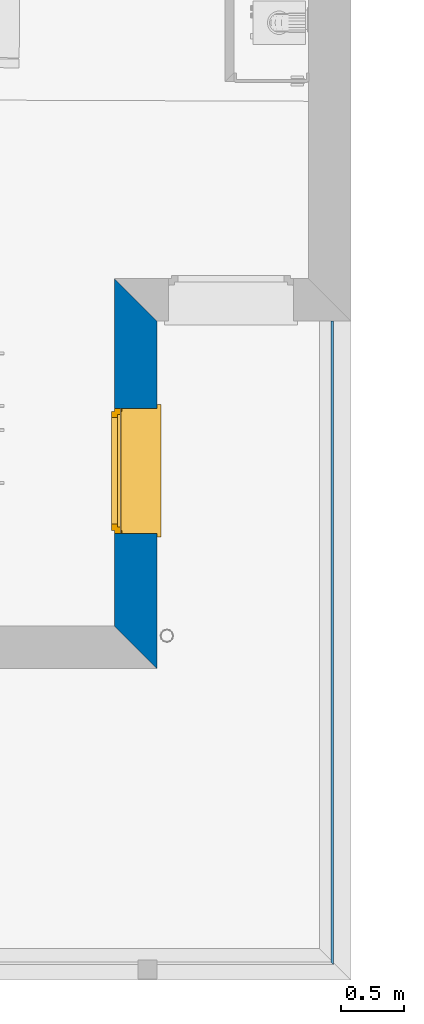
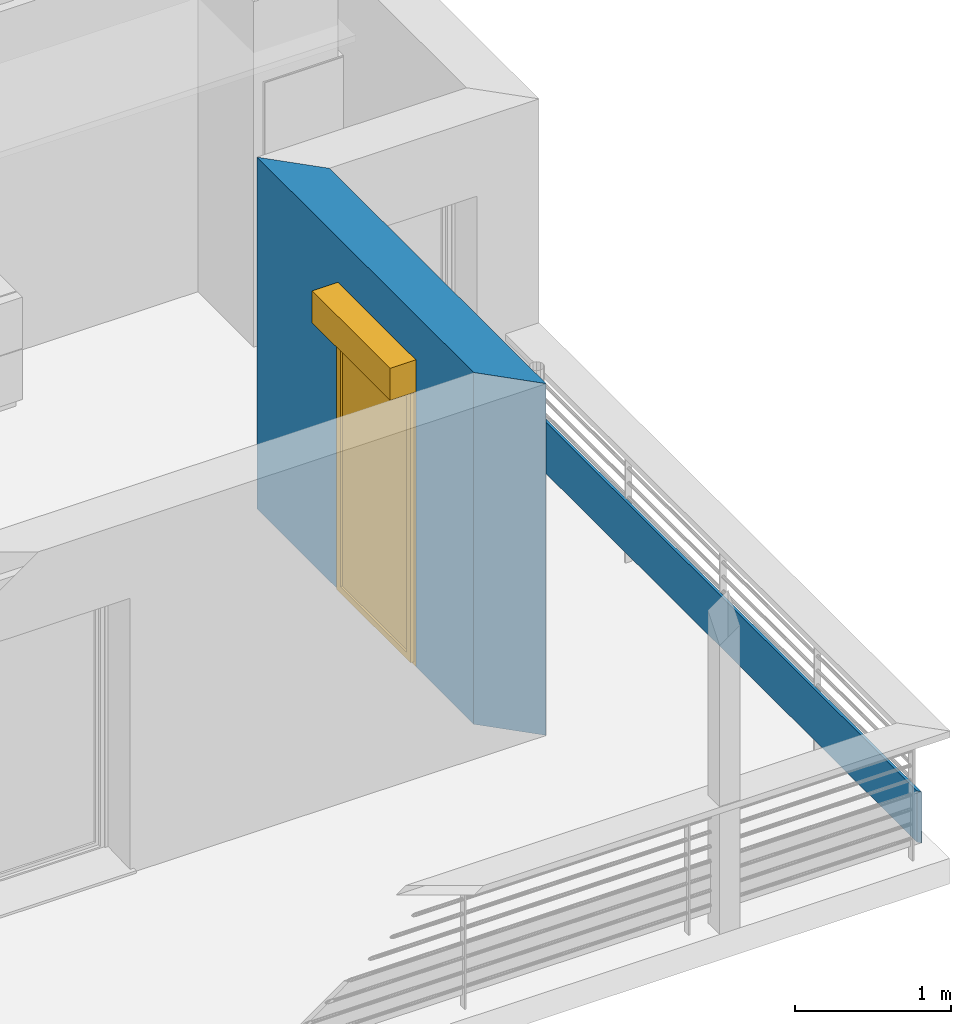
# One storey, part 14 of 164: 2 walls, 1 window, 1 opening.
"""IFC2X3 building model written with IfcOpenShell, lengths in millimetres."""

from ifc_helpers import new_model, entity, si_unit, converted_unit, derived_unit, money_unit, direction, frame, origin_with_axes, place, context, subcontext, project, spatial, polyline, outline, extrude, open_shell, faceted_brep, surface_model, source, transform, mapped, material, layer, layer_set, layer_usage, type_object, element, fill, save


model = new_model("IFC2X3")

# Units and contexts
model_context = context("Model", 3, precision=0.01, world=origin_with_axes(), true_north=direction((0.0, 1.0)))
body_context = subcontext(model_context, "Body", "Model", "MODEL_VIEW")
ifc_project = project(units=[si_unit("LENGTHUNIT", "METRE", prefix="MILLI"), si_unit("AREAUNIT", "SQUARE_METRE"), si_unit("VOLUMEUNIT", "CUBIC_METRE"), converted_unit("PLANEANGLEUNIT", "DEGREE", entity("IfcPlaneAngleMeasure", 0.0174532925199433), si_unit("PLANEANGLEUNIT", "RADIAN"), dimensions=[0, 0, 0, 0, 0, 0, 0]), money_unit("USD"), converted_unit("TIMEUNIT", "Year", entity("IfcTimeMeasure", 31557600.0), si_unit("TIMEUNIT", "SECOND"), dimensions=[0, 0, 1, 0, 0, 0, 0]), si_unit("MASSUNIT", "GRAM", prefix="KILO"), si_unit("THERMODYNAMICTEMPERATUREUNIT", "DEGREE_CELSIUS"), si_unit("LUMINOUSINTENSITYUNIT", "LUMEN"), si_unit("ENERGYUNIT", "JOULE", prefix="MEGA"), derived_unit("THERMALCONDUCTANCEUNIT", [(si_unit("POWERUNIT", "WATT"), 1), (si_unit("LENGTHUNIT", "METRE"), -1), (si_unit("THERMODYNAMICTEMPERATUREUNIT", "KELVIN"), -1)]), derived_unit("SPECIFICHEATCAPACITYUNIT", [(si_unit("ENERGYUNIT", "JOULE"), 1), (si_unit("MASSUNIT", "GRAM", prefix="KILO"), -1), (si_unit("THERMODYNAMICTEMPERATUREUNIT", "KELVIN"), -1)]), derived_unit("MASSDENSITYUNIT", [(si_unit("MASSUNIT", "GRAM", prefix="KILO"), 1), (si_unit("VOLUMEUNIT", "CUBIC_METRE"), -1)])], contexts=[model_context])

# Site, building, storey
site_placement = place(None, origin_with_axes())
site = spatial("IfcSite", under=ifc_project, at=site_placement, Name="Site", CompositionType="ELEMENT")
building_placement = place(site_placement, origin_with_axes())
building = spatial("IfcBuilding", under=site, at=building_placement, Name="Bâtiment", CompositionType="ELEMENT")
storey_placement = place(building_placement, frame((0.0, 0.0, 5750.0), z_axis=(0.0, 0.0, 1.0), x_axis=(1.0, 0.0, 0.0)))
storey = spatial("IfcBuildingStorey", under=building, at=storey_placement, Name="Etage1", CompositionType="ELEMENT", Elevation=5750.0)

# Wall
ifc_material_1 = material(Name="MANQUANT")
ifc_layer_1 = layer(ifc_material_1, 20.0, ventilated="UNKNOWN")
ifc_layer_set_1 = layer_set([ifc_layer_1], Name="MANQUANT 20")
ifc_layer_usage_1 = layer_usage(ifc_layer_set_1, "AXIS2", "NEGATIVE", 20.0)
wall_type_1 = type_object("IfcWallType", Name="MANQUANT 20", PredefinedType="NOTDEFINED")
wall_1_placement = place(storey_placement, frame((2234215.605458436, -660181.523627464, 99.99999999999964), z_axis=(0.0, 0.0, 1.0), x_axis=(0.0, 1.0, 0.0)))
element("IfcWallStandardCase", 1, at=wall_1_placement, inside=storey, type_object=wall_type_1, material=ifc_layer_usage_1, Name="Mur-152", context=body_context, shape_type="SweptSolid", body=[
    extrude(outline(polyline([(0.0, 0.0), (5140.055849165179, 0.0), (5140.055849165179, 19.99999999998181), (19.99999999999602, 19.99999999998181), (0.0, 0.0)])), origin_with_axes(), (0.0, 0.0, 1.0), 400.0),
])

# Wall, opening, window
ifc_material_2 = material(Name="Parpaing 312445824")
ifc_layer_2 = layer(ifc_material_2, 180.0, ventilated="UNKNOWN")
ifc_material_3 = material(Name="Isolant styromousse 301821074")
ifc_layer_3 = layer(ifc_material_3, 160.0, ventilated="UNKNOWN")
ifc_layer_set_2 = layer_set([ifc_layer_2, ifc_layer_3], Name="isol int 18+16 0018356637")
ifc_layer_usage_2 = layer_usage(ifc_layer_set_2, "AXIS2", "POSITIVE", 0.0)
wall_type_2 = type_object("IfcWallType", Name="isol int 18+16 0018356637 340", PredefinedType="NOTDEFINED")
wall_2_placement = place(storey_placement, frame((2232806.658098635, -657818.3230769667, 0.0), z_axis=(0.0, 0.0, 1.0), x_axis=(0.0, 1.0, 0.0)))
wall_2 = element("IfcWallStandardCase", 2, at=wall_2_placement, inside=storey, type_object=wall_type_2, material=ifc_layer_usage_2, Name="Mur-142", context=body_context, shape_type="SweptSolid", body=[
    extrude(outline(polyline([(0.0, 0.0), (2776.855298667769, 0.0), (3116.855298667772, 340.0000000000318), (339.9999999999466, 340.0000000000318), (0.0, 0.0)])), origin_with_axes(), (0.0, 0.0, 1.0), 2750.0),
])
opening_placement = place(wall_2_placement, frame((1580.519634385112, 0.0, 0.0), z_axis=(0.0, 0.0, 1.0), x_axis=(1.0, 0.0, 0.0)))
opening = element("IfcOpeningElement", 3, at=opening_placement, cuts=wall_2, Name="Fen-208", context=body_context, shape_type="Brep", body=[
    faceted_brep([(500.0, 290.0000000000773, 2150.0), (500.0, 280.0000000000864, 2150.0), (500.0, -0.9999999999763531, 2150.0), (500.0, -0.9999999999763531, 0.0), (500.0, 290.0000000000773, 0.0), (500.0, 341.0000000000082, 2150.0), (500.0, 530.0000000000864, 2150.0), (500.0, 530.0000000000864, 2400.0), (500.0, 280.0000000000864, 2400.0), (-500.0, 280.0000000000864, 2150.0), (-500.0, -0.9999999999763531, 2150.0), (-500.0, -0.9999999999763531, 0.0), (-500.0, 290.0000000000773, 0.0), (-500.0, 341.0000000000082, 0.0), (500.0, 341.0000000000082, 0.0), (-500.0, 341.0000000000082, 2150.0), (-500.0, 530.0000000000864, 2150.0), (-500.0, 530.0000000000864, 2400.0), (-500.0, 280.0000000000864, 2400.0), (-500.0, 290.0000000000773, 2150.0)], [[[0, 1, 2, 3, 4]], [[1, 0, 5, 6, 7, 8]], [[1, 9, 10, 2]], [[10, 11, 3, 2]], [[4, 3, 11, 12, 13, 14]], [[5, 0, 4, 14]], [[5, 15, 16, 6]], [[16, 17, 7, 6]], [[17, 18, 8, 7]], [[9, 1, 8, 18]], [[9, 19, 12, 11, 10]], [[19, 15, 13, 12]], [[15, 5, 14, 13]], [[19, 9, 18, 17, 16, 15]]]),
])
window_style = type_object("IfcWindowStyle", Name="Fenêtre 27", ConstructionType="NOTDEFINED", OperationType="SINGLE_PANEL", ParameterTakesPrecedence=False, Sizeable=False)
shared_shape = source(origin_with_axes(), body_context, "Body", "SurfaceModel", [
    surface_model("IfcShellBasedSurfaceModel", [(-500.0, -51.00000000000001, 40.00000000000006), (500.0, -51.00000000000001, 40.0), (500.0, -51.00000000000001, 50.0), (-500.0, -51.00000000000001, 50.00000000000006), (-530.0, -369.9999999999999, 28.96551724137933), (530.0, -369.9999999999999, 28.96551724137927), (530.0, -339.9999999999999, 30.00324289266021), (500.0, -339.9999999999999, 30.00324289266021), (-500.0, -339.9999999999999, 30.00324289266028), (-530.0, -339.9999999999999, 30.00324289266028), (-530.0, -369.9999999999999, 8.96551724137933), (530.0, -369.9999999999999, 8.965517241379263), (-530.0, -359.9999999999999, 18.96551724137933), (530.0, -359.9999999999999, 18.96551724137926)], [open_shell([[[0, 1, 2, 3]], [[4, 5, 6, 7, 1, 0, 8, 9]], [[10, 11, 5, 4]], [[12, 13, 11, 10]]])]),
    faceted_brep([(500.0, -59.99999999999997, 2400.0), (500.0, 190.0, 2400.0), (497.0, 190.0, 2400.0), (497.0, -59.99999999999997, 2400.0), (500.0, -59.99999999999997, 2150.0), (500.0, 190.0, 2150.0), (497.0, 190.0, 2150.0), (497.0, -59.99999999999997, 2150.0)], [[[0, 1, 2, 3]], [[0, 4, 5, 1]], [[1, 5, 6, 2]], [[3, 2, 6, 7]], [[4, 0, 3, 7]], [[5, 4, 7, 6]]]),
    faceted_brep([(-497.0, -59.99999999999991, 2400.0), (-497.0, 190.0000000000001, 2400.0), (-500.0, 190.0000000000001, 2400.0), (-500.0, -59.99999999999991, 2400.0), (-497.0, -59.99999999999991, 2150.0), (-497.0, 190.0000000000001, 2150.0), (-500.0, 190.0000000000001, 2150.0), (-500.0, -59.99999999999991, 2150.0)], [[[0, 1, 2, 3]], [[0, 4, 5, 1]], [[1, 5, 6, 2]], [[3, 2, 6, 7]], [[4, 0, 3, 7]], [[5, 4, 7, 6]]]),
    faceted_brep([(497.0, -60.0, 2150.0), (497.0, -60.0, 2400.0), (-497.0, -59.99999999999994, 2400.0), (-497.0, -59.99999999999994, 2150.0), (497.0, -56.99999999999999, 2150.0), (497.0, -56.99999999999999, 2397.0), (497.0, 187.0, 2397.0), (497.0, 187.0, 2153.0), (497.0, -37.99999999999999, 2153.0), (497.0, -37.99999999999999, 2150.0), (497.0, 190.0, 2150.0), (497.0, 190.0, 2400.0), (-497.0, 190.0000000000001, 2400.0), (-497.0, 190.0000000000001, 2150.0), (-497.0, -37.99999999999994, 2150.0), (-497.0, -37.99999999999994, 2153.0), (-497.0, 187.0000000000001, 2153.0), (-497.0, 187.0000000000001, 2397.0), (-497.0, -56.99999999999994, 2397.0), (-497.0, -56.99999999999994, 2150.0)], [[[0, 1, 2, 3]], [[0, 4, 5, 6, 7, 8, 9, 10, 11, 1]], [[1, 11, 12, 2]], [[3, 2, 12, 13, 14, 15, 16, 17, 18, 19]], [[4, 0, 3, 19]], [[5, 4, 19, 18]], [[6, 5, 18, 17]], [[7, 6, 17, 16]], [[8, 7, 16, 15]], [[9, 8, 15, 14]], [[10, 9, 14, 13]], [[11, 10, 13, 12]]]),
    faceted_brep([(494.0, -40.37442957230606, 2256.419644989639), (494.0, -35.54711042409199, 2238.403844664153), (494.0, -27.66471820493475, 2221.5), (494.0, -16.9667554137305, 2206.22172576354), (494.0, -3.778274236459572, 2193.033244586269), (494.0, 11.50000000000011, 2182.335281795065), (494.0, 28.40384466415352, 2174.452889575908), (494.0, 46.4196449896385, 2169.625570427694), (494.0, 65.00000000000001, 2168.0), (494.0, 83.58035501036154, 2169.625570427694), (494.0, 101.5961553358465, 2174.452889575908), (494.0, 118.4999999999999, 2182.335281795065), (494.0, 133.7782742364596, 2193.033244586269), (494.0, 146.9667554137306, 2206.22172576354), (494.0, 157.6647182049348, 2221.5), (494.0, 165.5471104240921, 2238.403844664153), (494.0, 170.3744295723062, 2256.419644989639), (494.0, 171.9999999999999, 2275.0), (494.0, 170.3744295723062, 2293.580355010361), (494.0, 165.5471104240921, 2311.596155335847), (494.0, 157.6647182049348, 2328.5), (494.0, 146.9667554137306, 2343.77827423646), (494.0, 133.7782742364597, 2356.96675541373), (494.0, 118.5, 2367.664718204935), (494.0, 101.5961553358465, 2375.547110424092), (494.0, 83.58035501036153, 2380.374429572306), (494.0, 64.99999999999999, 2382.0), (494.0, 46.41964498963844, 2380.374429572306), (494.0, 28.40384466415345, 2375.547110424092), (494.0, 11.5, 2367.664718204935), (494.0, -3.778274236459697, 2356.96675541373), (494.0, -16.96675541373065, 2343.77827423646), (494.0, -27.66471820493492, 2328.5), (494.0, -35.54711042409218, 2311.596155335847), (494.0, -40.37442957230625, 2293.580355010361), (494.0, -41.99999999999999, 2275.0), (-494.0, -40.374429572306, 2256.419644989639), (-494.0, -35.54711042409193, 2238.403844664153), (-494.0, -27.6647182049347, 2221.5), (-494.0, -16.96675541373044, 2206.22172576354), (-494.0, -3.778274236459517, 2193.033244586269), (-494.0, 11.50000000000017, 2182.335281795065), (-494.0, 28.40384466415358, 2174.452889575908), (-494.0, 46.41964498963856, 2169.625570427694), (-494.0, 65.00000000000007, 2168.0), (-494.0, 83.5803550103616, 2169.625570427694), (-494.0, 101.5961553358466, 2174.452889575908), (-494.0, 118.5, 2182.335281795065), (-494.0, 133.7782742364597, 2193.033244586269), (-494.0, 146.9667554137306, 2206.22172576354), (-494.0, 157.6647182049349, 2221.5), (-494.0, 165.5471104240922, 2238.403844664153), (-494.0, 170.3744295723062, 2256.419644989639), (-494.0, 172.0, 2275.0), (-494.0, 170.3744295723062, 2293.580355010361), (-494.0, 165.5471104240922, 2311.596155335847), (-494.0, 157.6647182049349, 2328.5), (-494.0, 146.9667554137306, 2343.77827423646), (-494.0, 133.7782742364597, 2356.96675541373), (-494.0, 118.5, 2367.664718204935), (-494.0, 101.5961553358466, 2375.547110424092), (-494.0, 83.58035501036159, 2380.374429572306), (-494.0, 65.00000000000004, 2382.0), (-494.0, 46.41964498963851, 2380.374429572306), (-494.0, 28.40384466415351, 2375.547110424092), (-494.0, 11.50000000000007, 2367.664718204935), (-494.0, -3.778274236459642, 2356.96675541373), (-494.0, -16.96675541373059, 2343.77827423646), (-494.0, -27.66471820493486, 2328.5), (-494.0, -35.54711042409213, 2311.596155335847), (-494.0, -40.37442957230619, 2293.580355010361), (-494.0, -41.99999999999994, 2275.0)], [[[0, 1, 2, 3, 4, 5, 6, 7, 8, 9, 10, 11, 12, 13, 14, 15, 16, 17, 18, 19, 20, 21, 22, 23, 24, 25, 26, 27, 28, 29, 30, 31, 32, 33, 34, 35]], [[1, 0, 36, 37]], [[2, 1, 37, 38]], [[3, 2, 38, 39]], [[4, 3, 39, 40]], [[5, 4, 40, 41]], [[6, 5, 41, 42]], [[7, 6, 42, 43]], [[8, 7, 43, 44]], [[9, 8, 44, 45]], [[10, 9, 45, 46]], [[11, 10, 46, 47]], [[12, 11, 47, 48]], [[13, 12, 48, 49]], [[14, 13, 49, 50]], [[15, 14, 50, 51]], [[16, 15, 51, 52]], [[17, 16, 52, 53]], [[18, 17, 53, 54]], [[19, 18, 54, 55]], [[20, 19, 55, 56]], [[21, 20, 56, 57]], [[22, 21, 57, 58]], [[23, 22, 58, 59]], [[24, 23, 59, 60]], [[25, 24, 60, 61]], [[26, 25, 61, 62]], [[27, 26, 62, 63]], [[28, 27, 63, 64]], [[29, 28, 64, 65]], [[30, 29, 65, 66]], [[31, 30, 66, 67]], [[32, 31, 67, 68]], [[33, 32, 68, 69]], [[34, 33, 69, 70]], [[35, 34, 70, 71]], [[0, 35, 71, 36]], [[36, 71, 70, 69, 68, 67, 66, 65, 64, 63, 62, 61, 60, 59, 58, 57, 56, 55, 54, 53, 52, 51, 50, 49, 48, 47, 46, 45, 44, 43, 42, 41, 40, 39, 38, 37]]]),
    faceted_brep([(-500.0, -34.99999999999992, 30.0), (-500.0, -59.99999999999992, 30.0), (-500.0, -59.99999999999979, 2150.0), (-500.0, -34.99999999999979, 2150.0), (-475.0, -34.99999999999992, 30.0), (-475.0, -37.99999999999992, 30.0), (-497.0, -37.99999999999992, 30.0), (-497.0, -56.99999999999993, 30.0), (-475.0, -56.99999999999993, 30.0), (-475.0, -59.99999999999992, 30.0), (-475.0, -59.99999999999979, 2150.0), (-475.0, -56.99999999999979, 2150.0), (-497.0, -56.99999999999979, 2150.0), (-497.0, -37.99999999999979, 2150.0), (-475.0, -37.99999999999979, 2150.0), (-475.0, -34.99999999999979, 2150.0)], [[[0, 1, 2, 3]], [[0, 4, 5, 6, 7, 8, 9, 1]], [[1, 9, 10, 2]], [[3, 2, 10, 11, 12, 13, 14, 15]], [[4, 0, 3, 15]], [[5, 4, 15, 14]], [[6, 5, 14, 13]], [[7, 6, 13, 12]], [[8, 7, 12, 11]], [[9, 8, 11, 10]]]),
    faceted_brep([(500.0, -34.99999999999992, 30.0), (500.0, -34.99999999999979, 2150.0), (500.0, -59.99999999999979, 2150.0), (500.0, -59.99999999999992, 30.0), (475.0, -34.99999999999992, 30.0), (475.0, -34.99999999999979, 2150.0), (475.0, -37.99999999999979, 2150.0), (497.0, -37.99999999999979, 2150.0), (497.0, -56.99999999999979, 2150.0), (475.0, -56.99999999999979, 2150.0), (475.0, -59.99999999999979, 2150.0), (475.0, -59.99999999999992, 30.0), (475.0, -56.99999999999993, 30.0), (497.0, -56.99999999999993, 30.0), (497.0, -37.99999999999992, 30.0), (475.0, -37.99999999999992, 30.0)], [[[0, 1, 2, 3]], [[4, 5, 1, 0]], [[1, 5, 6, 7, 8, 9, 10, 2]], [[3, 2, 10, 11]], [[0, 3, 11, 12, 13, 14, 15, 4]], [[15, 6, 5, 4]], [[14, 7, 6, 15]], [[13, 8, 7, 14]], [[12, 9, 8, 13]], [[11, 10, 9, 12]]]),
    faceted_brep([(-497.0, -46.66666666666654, 2275.0), (497.0, -46.6666666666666, 2275.0), (497.0, -46.6666666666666, 2266.666666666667), (-497.0, -46.66666666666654, 2266.666666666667), (-497.0, -51.66666666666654, 2275.0), (497.0, -51.6666666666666, 2275.0), (497.0, -51.6666666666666, 2266.666666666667), (497.0, -49.99999999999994, 2250.0), (497.0, -44.99999999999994, 2250.0), (-497.0, -44.99999999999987, 2250.0), (-497.0, -49.99999999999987, 2250.0), (-497.0, -51.66666666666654, 2266.666666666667)], [[[0, 1, 2, 3]], [[1, 0, 4, 5]], [[1, 5, 6, 7, 8, 2]], [[2, 8, 9, 3]], [[4, 0, 3, 9, 10, 11]], [[6, 5, 4, 11]], [[7, 6, 11, 10]], [[8, 7, 10, 9]]]),
    faceted_brep([(497.0, -44.99999999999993, 2250.0), (497.0, -46.6666666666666, 2233.333333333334), (-497.0, -46.66666666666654, 2233.333333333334), (-497.0, -44.99999999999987, 2250.0), (497.0, -49.99999999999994, 2250.0), (497.0, -51.6666666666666, 2233.333333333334), (497.0, -51.6666666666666, 2216.666666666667), (497.0, -49.99999999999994, 2200.0), (497.0, -44.99999999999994, 2200.0), (497.0, -46.6666666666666, 2216.666666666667), (-497.0, -46.66666666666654, 2216.666666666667), (-497.0, -44.99999999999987, 2200.0), (-497.0, -49.99999999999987, 2200.0), (-497.0, -51.66666666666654, 2216.666666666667), (-497.0, -51.66666666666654, 2233.333333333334), (-497.0, -49.99999999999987, 2250.0)], [[[0, 1, 2, 3]], [[0, 4, 5, 6, 7, 8, 9, 1]], [[1, 9, 10, 2]], [[3, 2, 10, 11, 12, 13, 14, 15]], [[4, 0, 3, 15]], [[5, 4, 15, 14]], [[6, 5, 14, 13]], [[7, 6, 13, 12]], [[8, 7, 12, 11]], [[9, 8, 11, 10]]]),
    faceted_brep([(497.0, -44.99999999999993, 2200.0), (497.0, -46.6666666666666, 2183.333333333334), (-497.0, -46.66666666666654, 2183.333333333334), (-497.0, -44.99999999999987, 2200.0), (497.0, -49.99999999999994, 2200.0), (497.0, -51.6666666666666, 2183.333333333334), (497.0, -51.6666666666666, 2166.666666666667), (497.0, -49.99999999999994, 2150.000000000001), (497.0, -44.99999999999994, 2150.000000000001), (497.0, -46.6666666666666, 2166.666666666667), (-497.0, -46.66666666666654, 2166.666666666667), (-497.0, -44.99999999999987, 2150.000000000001), (-497.0, -49.99999999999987, 2150.000000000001), (-497.0, -51.66666666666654, 2166.666666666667), (-497.0, -51.66666666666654, 2183.333333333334), (-497.0, -49.99999999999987, 2200.0)], [[[0, 1, 2, 3]], [[0, 4, 5, 6, 7, 8, 9, 1]], [[1, 9, 10, 2]], [[3, 2, 10, 11, 12, 13, 14, 15]], [[4, 0, 3, 15]], [[5, 4, 15, 14]], [[6, 5, 14, 13]], [[7, 6, 13, 12]], [[8, 7, 12, 11]], [[9, 8, 11, 10]]]),
    faceted_brep([(475.0000000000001, 0.0, 2100.0), (475.0000000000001, -25.00000000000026, 2100.0), (450.0, -25.00000000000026, 2100.0), (450.0, -50.00000000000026, 2100.0), (500.0, -50.00000000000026, 2100.0), (500.0, 0.0, 2100.0), (475.0000000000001, 0.0, 50.00000000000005), (475.0000000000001, -25.00000000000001, 50.00000000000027), (450.0, -25.00000000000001, 50.00000000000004), (450.0, -50.00000000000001, 50.00000000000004), (500.0, -50.00000000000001, 50.00000000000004), (500.0, 0.0, 50.00000000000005)], [[[0, 1, 2, 3, 4, 5]], [[1, 0, 6, 7]], [[8, 2, 1, 7]], [[2, 8, 9, 3]], [[4, 3, 9, 10]], [[5, 4, 10, 11]], [[6, 0, 5, 11]], [[7, 6, 11, 10, 9, 8]]]),
    faceted_brep([(-450.0, -25.00000000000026, 2100.0), (-475.0000000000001, -25.00000000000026, 2100.0), (-475.0000000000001, 0.0, 2100.0), (-500.0, 0.0, 2100.0), (-500.0, -50.00000000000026, 2100.0), (-450.0, -50.00000000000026, 2100.0), (-450.0, -25.00000000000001, 50.00000000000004), (-475.0000000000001, -25.00000000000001, 50.00000000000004), (-475.0000000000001, 0.0, 50.00000000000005), (-500.0, 0.0, 50.00000000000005), (-500.0, -50.00000000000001, 50.00000000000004), (-450.0, -50.00000000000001, 50.00000000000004)], [[[0, 1, 2, 3, 4, 5]], [[1, 0, 6, 7]], [[8, 2, 1, 7]], [[2, 8, 9, 3]], [[9, 10, 4, 3]], [[10, 11, 5, 4]], [[6, 0, 5, 11]], [[7, 6, 11, 10, 9, 8]]]),
    faceted_brep([(-450.0, -25.00000000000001, 50.00000000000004), (-475.0000000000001, -25.00000000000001, 50.00000000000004), (-475.0000000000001, 0.0, 50.00000000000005), (-500.0, 0.0, 50.00000000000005), (-500.0, -50.00000000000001, 50.00000000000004), (-450.0, -50.00000000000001, 50.00000000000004), (450.0, -25.00000000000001, 50.00000000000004), (475.0000000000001, -25.00000000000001, 50.00000000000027), (475.0000000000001, -25.0, 24.99999999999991), (-475.0000000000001, -25.0, 24.99999999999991), (-475.0000000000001, 0.0, 24.99999999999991), (475.0000000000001, 0.0, 24.99999999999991), (475.0000000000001, 0.0, 50.00000000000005), (500.0, 0.0, 50.00000000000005), (500.0, 0.0, 0.0), (-500.0, 0.0, 0.0), (-500.0, -50.0, 0.0), (500.0, -50.00000000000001, 50.00000000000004), (450.0, -50.00000000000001, 50.00000000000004), (500.0, -50.0, 0.0)], [[[0, 1, 2, 3, 4, 5]], [[1, 0, 6, 7, 8, 9]], [[10, 2, 1, 9]], [[11, 12, 13, 14, 15, 3, 2, 10]], [[15, 16, 4, 3]], [[17, 18, 5, 4, 16, 19]], [[6, 0, 5, 18]], [[7, 6, 18, 17, 13, 12]], [[7, 12, 11, 8]], [[11, 10, 9, 8]], [[13, 17, 19, 14]], [[14, 19, 16, 15]]]),
    faceted_brep([(475.0000000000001, 0.0, 2100.0), (475.0000000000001, 0.0, 2125.0), (-475.0000000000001, 0.0, 2125.0), (-475.0000000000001, 0.0, 2100.0), (-500.0, 0.0, 2100.0), (-500.0, 0.0, 2150.0), (500.0, 0.0, 2150.0), (500.0, 0.0, 2100.0), (475.0000000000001, -25.00000000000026, 2100.0), (475.0000000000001, -25.00000000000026, 2125.0), (-475.0000000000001, -25.00000000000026, 2125.0), (-475.0000000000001, -25.00000000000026, 2100.0), (-450.0, -25.00000000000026, 2100.0), (-450.0, -50.00000000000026, 2100.0), (-500.0, -50.00000000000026, 2100.0), (-500.0, -50.00000000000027, 2150.0), (500.0, -50.00000000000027, 2150.0), (500.0, -50.00000000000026, 2100.0), (450.0, -50.00000000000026, 2100.0), (450.0, -25.00000000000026, 2100.0)], [[[0, 1, 2, 3, 4, 5, 6, 7]], [[1, 0, 8, 9]], [[2, 1, 9, 10]], [[3, 2, 10, 11]], [[11, 12, 13, 14, 4, 3]], [[4, 14, 15, 5]], [[5, 15, 16, 6]], [[6, 16, 17, 7]], [[8, 0, 7, 17, 18, 19]], [[12, 11, 10, 9, 8, 19]], [[12, 19, 18, 13]], [[14, 13, 18, 17, 16, 15]]]),
    faceted_brep([(425.0000000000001, -25.00000000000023, 2075.0), (475.0000000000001, -25.00000000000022, 2075.0), (475.0000000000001, 24.99999999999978, 2075.0), (425.0000000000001, 24.99999999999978, 2075.0), (425.0000000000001, -24.99999999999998, 75.00000000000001), (475.0000000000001, -24.99999999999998, 75.00000000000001), (475.0000000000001, 25.00000000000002, 75.00000000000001), (425.0000000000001, 25.00000000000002, 75.00000000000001)], [[[0, 1, 2, 3]], [[0, 4, 5, 1]], [[1, 5, 6, 2]], [[3, 2, 6, 7]], [[4, 0, 3, 7]], [[5, 4, 7, 6]]]),
    faceted_brep([(-425.0000000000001, -25.00000000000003, 75.00000000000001), (-475.0000000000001, -25.00000000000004, 75.00000000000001), (-475.0000000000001, 24.99999999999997, 75.00000000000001), (-425.0000000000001, 24.99999999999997, 75.00000000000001), (-425.0000000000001, -25.00000000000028, 2075.0), (-475.0000000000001, -25.00000000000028, 2075.0), (-475.0000000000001, 24.99999999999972, 2075.0), (-425.0000000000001, 24.99999999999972, 2075.0)], [[[0, 1, 2, 3]], [[0, 4, 5, 1]], [[1, 5, 6, 2]], [[3, 2, 6, 7]], [[4, 0, 3, 7]], [[5, 4, 7, 6]]]),
    faceted_brep([(-475.0000000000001, -25.00000000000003, 25.0), (-475.0000000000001, -25.00000000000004, 75.00000000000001), (-475.0000000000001, 24.99999999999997, 75.00000000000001), (-475.0000000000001, 24.99999999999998, 25.00000000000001), (475.0000000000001, -24.99999999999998, 25.0), (475.0000000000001, -24.99999999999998, 75.00000000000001), (425.0000000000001, -24.99999999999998, 75.00000000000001), (-425.0000000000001, -25.00000000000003, 75.00000000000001), (-425.0000000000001, 24.99999999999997, 75.00000000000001), (425.0000000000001, 25.00000000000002, 75.00000000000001), (475.0000000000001, 25.00000000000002, 75.00000000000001), (475.0000000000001, 25.00000000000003, 25.00000000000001)], [[[0, 1, 2, 3]], [[0, 4, 5, 6, 7, 1]], [[1, 7, 8, 2]], [[3, 2, 8, 9, 10, 11]], [[4, 0, 3, 11]], [[5, 4, 11, 10]], [[6, 5, 10, 9]], [[7, 6, 9, 8]]]),
    faceted_brep([(475.0000000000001, -25.00000000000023, 2125.0), (475.0000000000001, -25.00000000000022, 2075.0), (475.0000000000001, 24.99999999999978, 2075.0), (475.0000000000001, 24.99999999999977, 2125.0), (-475.0000000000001, -25.00000000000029, 2125.0), (-475.0000000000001, -25.00000000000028, 2075.0), (-425.0000000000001, -25.00000000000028, 2075.0), (425.0000000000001, -25.00000000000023, 2075.0), (425.0000000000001, 24.99999999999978, 2075.0), (-425.0000000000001, 24.99999999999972, 2075.0), (-475.0000000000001, 24.99999999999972, 2075.0), (-475.0000000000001, 24.99999999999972, 2125.0)], [[[0, 1, 2, 3]], [[0, 4, 5, 6, 7, 1]], [[1, 7, 8, 2]], [[3, 2, 8, 9, 10, 11]], [[4, 0, 3, 11]], [[5, 4, 11, 10]], [[6, 5, 10, 9]], [[7, 6, 9, 8]]]),
    surface_model("IfcShellBasedSurfaceModel", [(425.0000000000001, -10.00000000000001, 75.00000000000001), (425.0000000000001, -10.00000000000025, 2075.0), (-425.0000000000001, -10.00000000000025, 2075.0), (-425.0000000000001, -10.00000000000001, 75.00000000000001)], [open_shell([[[0, 1, 2, 3]]])]),
    surface_model("IfcShellBasedSurfaceModel", [(425.0000000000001, 9.999999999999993, 75.00000000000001), (-425.0000000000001, 9.999999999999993, 75.00000000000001), (-425.0000000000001, 9.99999999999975, 2075.0), (425.0000000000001, 9.99999999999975, 2075.0)], [open_shell([[[0, 1, 2, 3]]])]),
])
window_placement = place(opening_placement, frame((-500.0000000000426, 0.0, 0.0), z_axis=(0.0, 0.0, 1.0), x_axis=(1.0, 0.0, 0.0)))
window = element("IfcWindow", 4, at=window_placement, inside=storey, type_object=window_style, Name="Fen-208", OverallHeight=2150.0, OverallWidth=1000.0, context=body_context, shape_type="MappedRepresentation", body=[
    mapped(shared_shape, transform((500.0, 340.0000000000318, 0.0))),
])
fill(opening, window)

save(model, "model.ifc")
